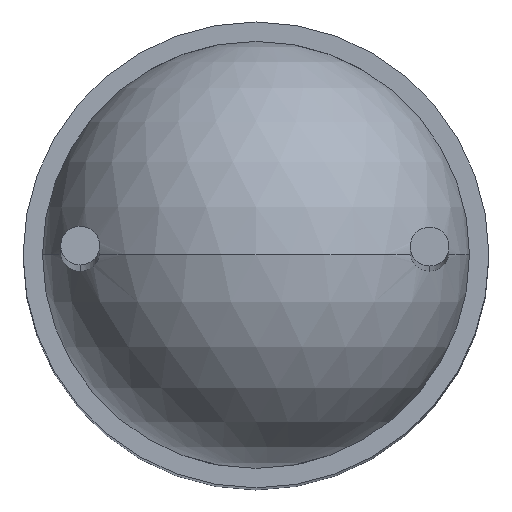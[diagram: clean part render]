
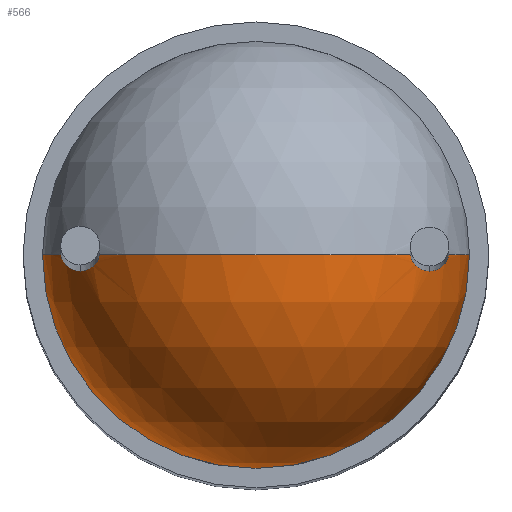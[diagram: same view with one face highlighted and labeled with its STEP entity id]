
A CAD part, top view. The second image highlights one B-rep face of the part: STEP entity #566.
In plain terms, the highlighted spherical face has radius 1.397 mm.
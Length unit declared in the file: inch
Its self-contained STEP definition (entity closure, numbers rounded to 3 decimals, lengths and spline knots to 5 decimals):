
#20 = EDGE_CURVE ( 'NONE', #375, #263, #52, .T. ) ;
#21 = AXIS2_PLACEMENT_3D ( 'NONE', #147, #242, #445 ) ;
#24 = DIRECTION ( 'NONE',  ( 0., 0., -1. ) ) ;
#27 = B_SPLINE_CURVE_WITH_KNOTS ( 'NONE', 3,
 ( #136, #636, #441, #31, #390, #551 ),
 .UNSPECIFIED., .F., .F.,
 ( 4, 2, 4 ),
 ( 0.00023, 0.00035, 0.00047 ),
 .UNSPECIFIED. ) ;
#31 = CARTESIAN_POINT ( 'NONE',  ( -1.01834, 0.77482, 0.19067 ) ) ;
#34 = CARTESIAN_POINT ( 'NONE',  ( -0.93208, 0.77332, 0.18644 ) ) ;
#39 = EDGE_CURVE ( 'NONE', #157, #153, #431, .T. ) ;
#43 = CARTESIAN_POINT ( 'NONE',  ( -0.97679, 0.77753, 0.15469 ) ) ;
#48 = VERTEX_POINT ( 'NONE', #434 ) ;
#52 = B_SPLINE_CURVE_WITH_KNOTS ( 'NONE', 3,
 ( #189, #138, #337, #393, #600, #194, #295, #340 ),
 .UNSPECIFIED., .F., .F.,
 ( 4, 2, 2, 4 ),
 ( 0.00109, 0.00116, 0.00123, 0.00137 ),
 .UNSPECIFIED. ) ;
#57 = DIRECTION ( 'NONE',  ( -1., 0., 0. ) ) ;
#62 = DIRECTION ( 'NONE',  ( -1., 0., 0. ) ) ;
#72 = DIRECTION ( 'NONE',  ( 0., -1., 0. ) ) ;
#75 = FACE_OUTER_BOUND ( 'NONE', #518, .T. ) ;
#82 = DIRECTION ( 'NONE',  ( -1., 0., 0. ) ) ;
#87 = EDGE_CURVE ( 'NONE', #591, #259, #454, .T. ) ;
#103 = CARTESIAN_POINT ( 'NONE',  ( -0.92728, 0.77667, 0.17864 ) ) ;
#110 = ORIENTED_EDGE ( 'NONE', *, *, #538, .T. ) ;
#121 = CIRCLE ( 'NONE', #212, 0.055 ) ;
#136 = CARTESIAN_POINT ( 'NONE',  ( -1.02208, 0.77332, 0.18562 ) ) ;
#138 = CARTESIAN_POINT ( 'NONE',  ( -1.02688, 0.77666, 0.17742 ) ) ;
#147 = CARTESIAN_POINT ( 'NONE',  ( -0.97679, 0.77753, 0.15469 ) ) ;
#152 = CARTESIAN_POINT ( 'NONE',  ( -0.97679, 0.77753, 0.15469 ) ) ;
#153 = VERTEX_POINT ( 'NONE', #317 ) ;
#155 = CARTESIAN_POINT ( 'NONE',  ( -1.02208, 0.77332, 0.18562 ) ) ;
#157 = VERTEX_POINT ( 'NONE', #159 ) ;
#159 = CARTESIAN_POINT ( 'NONE',  ( -0.93208, 0.77332, 0.18644 ) ) ;
#168 = EDGE_CURVE ( 'NONE', #375, #259, #646, .T. ) ;
#185 = CARTESIAN_POINT ( 'NONE',  ( -0.93003, 0.77363, 0.18345 ) ) ;
#189 = CARTESIAN_POINT ( 'NONE',  ( -1.02702, 0.77753, 0.17711 ) ) ;
#190 = DIRECTION ( 'NONE',  ( 0., 1., 0. ) ) ;
#194 = CARTESIAN_POINT ( 'NONE',  ( -1.02411, 0.77363, 0.18252 ) ) ;
#208 = CARTESIAN_POINT ( 'NONE',  ( -0.93399, 0.77356, 0.18904 ) ) ;
#211 = ORIENTED_EDGE ( 'NONE', *, *, #426, .F. ) ;
#212 = AXIS2_PLACEMENT_3D ( 'NONE', #533, #190, #82 ) ;
#221 = ORIENTED_EDGE ( 'NONE', *, *, #379, .T. ) ;
#224 = VERTEX_POINT ( 'NONE', #353 ) ;
#226 = CIRCLE ( 'NONE', #478, 0.055 ) ;
#235 = CARTESIAN_POINT ( 'NONE',  ( -0.93208, 0.77332, 0.18644 ) ) ;
#242 = DIRECTION ( 'NONE',  ( 0., 0., -1. ) ) ;
#259 = VERTEX_POINT ( 'NONE', #319 ) ;
#260 = CARTESIAN_POINT ( 'NONE',  ( -0.92714, 0.77753, 0.17835 ) ) ;
#263 = VERTEX_POINT ( 'NONE', #155 ) ;
#275 = AXIS2_PLACEMENT_3D ( 'NONE', #613, #367, #62 ) ;
#291 = CARTESIAN_POINT ( 'NONE',  ( -0.92872, 0.77457, 0.18127 ) ) ;
#295 = CARTESIAN_POINT ( 'NONE',  ( -1.02313, 0.77332, 0.18407 ) ) ;
#317 = CARTESIAN_POINT ( 'NONE',  ( -0.93702, 0.77753, 0.19268 ) ) ;
#319 = CARTESIAN_POINT ( 'NONE',  ( -1.03179, 0.77753, 0.15469 ) ) ;
#337 = CARTESIAN_POINT ( 'NONE',  ( -1.02655, 0.776, 0.17809 ) ) ;
#340 = CARTESIAN_POINT ( 'NONE',  ( -1.02208, 0.77332, 0.18562 ) ) ;
#353 = CARTESIAN_POINT ( 'NONE',  ( -1.01714, 0.77753, 0.19207 ) ) ;
#357 = VERTEX_POINT ( 'NONE', #411 ) ;
#363 = CARTESIAN_POINT ( 'NONE',  ( -0.97679, 0.77753, 0.15469 ) ) ;
#367 = DIRECTION ( 'NONE',  ( 0., 1., 0. ) ) ;
#373 = EDGE_CURVE ( 'NONE', #48, #591, #556, .T. ) ;
#375 = VERTEX_POINT ( 'NONE', #560 ) ;
#379 = EDGE_CURVE ( 'NONE', #48, #157, #573, .T. ) ;
#390 = CARTESIAN_POINT ( 'NONE',  ( -1.01739, 0.77595, 0.1918 ) ) ;
#393 = CARTESIAN_POINT ( 'NONE',  ( -1.02583, 0.77496, 0.17947 ) ) ;
#403 = DIRECTION ( 'NONE',  ( 0., 1., 0. ) ) ;
#406 = CARTESIAN_POINT ( 'NONE',  ( -0.93702, 0.77753, 0.19268 ) ) ;
#411 = CARTESIAN_POINT ( 'NONE',  ( -0.97679, 0.77753, 0.20969 ) ) ;
#426 = EDGE_CURVE ( 'NONE', #263, #224, #27, .T. ) ;
#431 = B_SPLINE_CURVE_WITH_KNOTS ( 'NONE', 3,
 ( #235, #554, #208, #491, #592, #406 ),
 .UNSPECIFIED., .F., .F.,
 ( 4, 2, 4 ),
 ( 0.00025, 0.00037, 0.00049 ),
 .UNSPECIFIED. ) ;
#434 = CARTESIAN_POINT ( 'NONE',  ( -0.92714, 0.77753, 0.17835 ) ) ;
#436 = AXIS2_PLACEMENT_3D ( 'NONE', #152, #403, #57 ) ;
#441 = CARTESIAN_POINT ( 'NONE',  ( -1.02019, 0.77356, 0.18829 ) ) ;
#444 = DIRECTION ( 'NONE',  ( 0., 0., -1. ) ) ;
#445 = DIRECTION ( 'NONE',  ( -1., 0., 0. ) ) ;
#454 = CIRCLE ( 'NONE', #21, 0.055 ) ;
#458 = CARTESIAN_POINT ( 'NONE',  ( -0.9276, 0.77601, 0.17926 ) ) ;
#464 = ORIENTED_EDGE ( 'NONE', *, *, #20, .F. ) ;
#471 = ORIENTED_EDGE ( 'NONE', *, *, #87, .F. ) ;
#478 = AXIS2_PLACEMENT_3D ( 'NONE', #43, #483, #444 ) ;
#481 = EDGE_CURVE ( 'NONE', #357, #153, #121, .T. ) ;
#483 = DIRECTION ( 'NONE',  ( 0., -1., 0. ) ) ;
#484 = CARTESIAN_POINT ( 'NONE',  ( -0.93103, 0.77332, 0.18497 ) ) ;
#491 = CARTESIAN_POINT ( 'NONE',  ( -0.93584, 0.77484, 0.19134 ) ) ;
#504 = ORIENTED_EDGE ( 'NONE', *, *, #39, .T. ) ;
#512 = CARTESIAN_POINT ( 'NONE',  ( -0.92831, 0.77497, 0.18055 ) ) ;
#515 = ORIENTED_EDGE ( 'NONE', *, *, #373, .F. ) ;
#518 = EDGE_LOOP ( 'NONE', ( #644, #110, #211, #464, #553, #471, #515, #221, #504 ) ) ;
#533 = CARTESIAN_POINT ( 'NONE',  ( -0.97679, 0.77753, 0.15469 ) ) ;
#538 = EDGE_CURVE ( 'NONE', #357, #224, #226, .T. ) ;
#551 = CARTESIAN_POINT ( 'NONE',  ( -1.01714, 0.77753, 0.19207 ) ) ;
#553 = ORIENTED_EDGE ( 'NONE', *, *, #168, .T. ) ;
#554 = CARTESIAN_POINT ( 'NONE',  ( -0.933, 0.77332, 0.18775 ) ) ;
#556 = CIRCLE ( 'NONE', #275, 0.055 ) ;
#560 = CARTESIAN_POINT ( 'NONE',  ( -1.02702, 0.77753, 0.17711 ) ) ;
#566 = ADVANCED_FACE ( 'NONE', ( #75 ), #609, .T. ) ;
#573 = B_SPLINE_CURVE_WITH_KNOTS ( 'NONE', 3,
 ( #260, #103, #458, #512, #291, #185, #484, #34 ),
 .UNSPECIFIED., .F., .F.,
 ( 4, 2, 2, 4 ),
 ( 0.00109, 0.00116, 0.00123, 0.00136 ),
 .UNSPECIFIED. ) ;
#591 = VERTEX_POINT ( 'NONE', #606 ) ;
#592 = CARTESIAN_POINT ( 'NONE',  ( -0.93677, 0.77596, 0.19242 ) ) ;
#600 = CARTESIAN_POINT ( 'NONE',  ( -1.02543, 0.77457, 0.18022 ) ) ;
#606 = CARTESIAN_POINT ( 'NONE',  ( -0.92179, 0.77753, 0.15469 ) ) ;
#609 = SPHERICAL_SURFACE ( 'NONE', #436, 0.055 ) ;
#613 = CARTESIAN_POINT ( 'NONE',  ( -0.97679, 0.77753, 0.15469 ) ) ;
#619 = AXIS2_PLACEMENT_3D ( 'NONE', #363, #72, #24 ) ;
#636 = CARTESIAN_POINT ( 'NONE',  ( -1.02116, 0.77332, 0.18697 ) ) ;
#644 = ORIENTED_EDGE ( 'NONE', *, *, #481, .F. ) ;
#646 = CIRCLE ( 'NONE', #619, 0.055 ) ;
